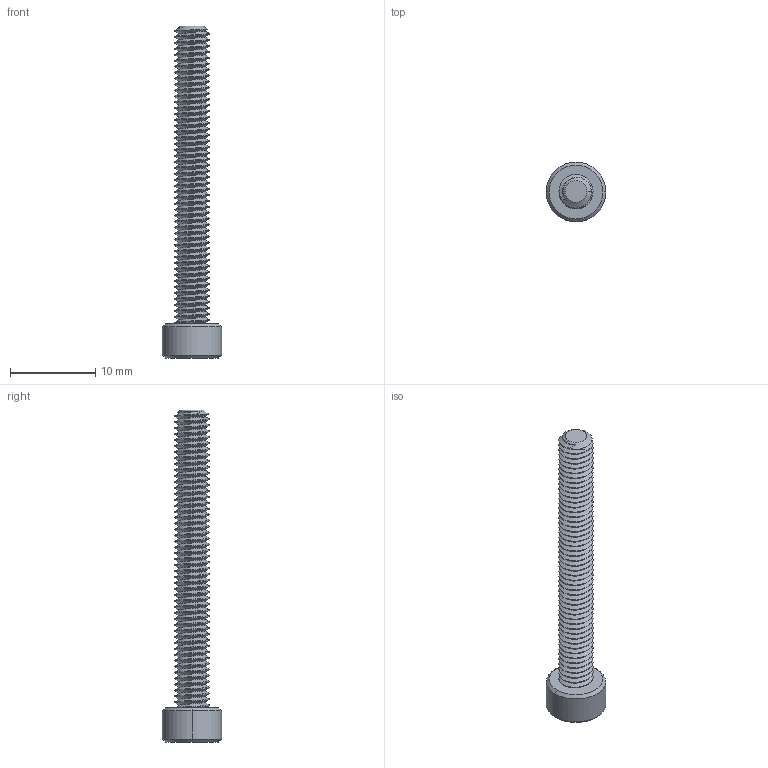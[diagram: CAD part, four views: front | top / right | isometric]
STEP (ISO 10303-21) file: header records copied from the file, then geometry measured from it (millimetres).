
FILE_DESCRIPTION (( 'STEP AP203' ), '1' );
FILE_NAME ('2800-0004-0035.STEP', '2017-04-04T18:14:43', ( '' ), ( '' ), 'SwSTEP 2.0', 'SolidWorks 2016', '' );
FILE_SCHEMA (( 'CONFIG_CONTROL_DESIGN' ));
Length unit declared in the file: millimetre
Products named in the file (1): 2800-0004-0035
Bounding box: 7 x 7 x 39 mm (x, y, z)
Volume: 481 mm3; surface area: 855.4 mm2
Topology: 1 solids, 1 shells, 228 faces, 655 edges, 431 vertices
Faces by surface type: cylinder 203, cone 13, plane 10, bspline 2
Entity records: 12001 total; most frequent: CARTESIAN_POINT 7169, ORIENTED_EDGE 1310, DIRECTION 718, EDGE_CURVE 655, VERTEX_POINT 431, AXIS2_PLACEMENT_3D 249, EDGE_LOOP 230, FACE_OUTER_BOUND 228
